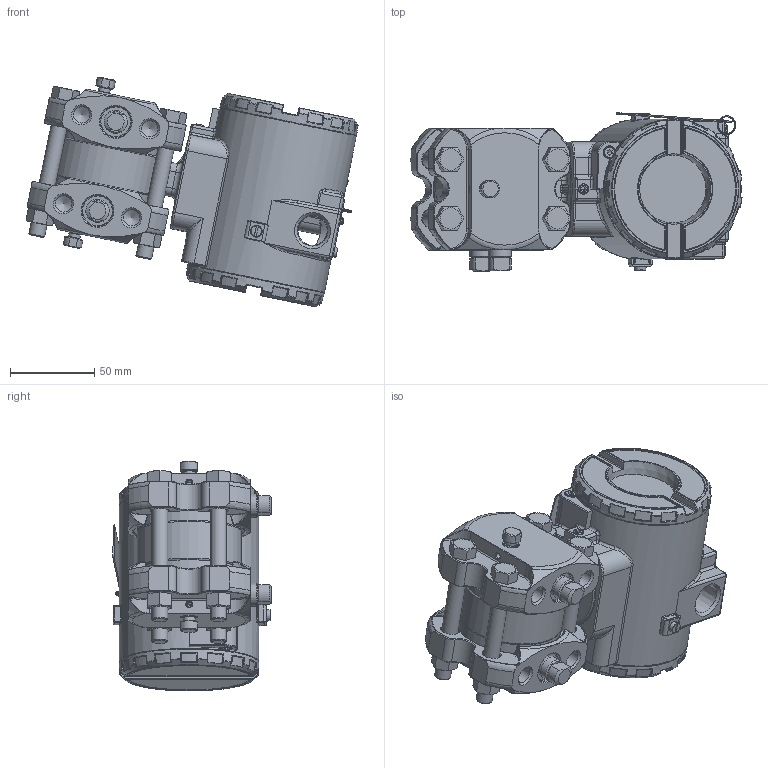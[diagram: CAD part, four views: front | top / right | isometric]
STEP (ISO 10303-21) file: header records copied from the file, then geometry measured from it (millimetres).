
FILE_DESCRIPTION(/* description */ (''),/* implementation_level */ '2;1');
FILE_NAME(/* name */ 'F:\Area\Desenvolvimento_2\Projects\Sensor\projetos\LD30X\montagens 3d - clientes\LD30XH0-3 1-4NPT Monel purga abaixo.stp',/* time_stamp */ '2023-01-26T11:56:32-03:00',/* author */ ('inventor02'),/* organization */ (''),/* preprocessor_version */ 'ST-DEVELOPER v17',/* originating_system */ 'Autodesk Inventor 2019',/* authorisation */ '');
FILE_SCHEMA (('CONFIG_CONTROL_DESIGN'));
Products named in the file (29): LD30XH0-3 1-4NPT Monel purga abaixo; diferencial FX0-3 monel purga abaixo; involucro fx0-3 apos a usinagem final; bujao 1-4NPT; 081-C-0500-10 monel barra 7-16 purga M8; Sangria; Porca 3-8 x 16 UNC; Paraf. 3-8 x 16 UNC; carcaça vazia com tampas e plaqueta; carcaça LD inox sem letras; Subconjunto plaqueta 300; Plaqueta transmissor; Parafuso da Plaqueta; Rebite da Plaqueta; 096-A-0169-03; 101-A-0502-01; Chapa aterramento externo; ISO 1207 - M4 x 8; DIN 915 - M6 x 10; ANSI B18.3.1M - M4x0,7 x 8; Subconjunto tampa com visor aluminio; tampa pintada; VIDRO DO VISOR; oring 41x1 vidro tampa; Trava do vidro da tampa com visor; trava do vidro VH256; Subconjunto tampa sem visor-aluminio; tampa cega 300 pintada p0; 00034775-0
Assembly tree (39 placements, depth 4):
  LD30XH0-3 1-4NPT Monel purga abaixo
    diferencial FX0-3 monel purga abaixo
      involucro fx0-3 apos a usinagem final
      bujao 1-4NPT  x2
      081-C-0500-10 monel barra 7-16 purga M8  x2
      Sangria  x2
      Porca 3-8 x 16 UNC  x4
      Paraf. 3-8 x 16 UNC  x4
    carcaça vazia com tampas e plaqueta
      carcaça LD inox sem letras
      Subconjunto plaqueta 300
        Plaqueta transmissor
        Parafuso da Plaqueta
        Rebite da Plaqueta
        096-A-0169-03
        101-A-0502-01
      Chapa aterramento externo
      ISO 1207 - M4 x 8
      DIN 915 - M6 x 10
      ANSI B18.3.1M - M4x0,7 x 8  x2
      Subconjunto tampa com visor aluminio
        tampa pintada
        VIDRO DO VISOR
        oring 41x1 vidro tampa
        Trava do vidro da tampa com visor
        trava do vidro VH256
        00034775-0
      Subconjunto tampa sem visor-aluminio
        tampa cega 300 pintada p0
        00034775-0
Bounding box: 197.48 x 94.1 x 136.71 mm (x, y, z)
Volume: 636683.8 mm3; surface area: 236075.2 mm2
Topology: 34 solids, 34 shells, 2266 faces, 5509 edges, 3279 vertices
Faces by surface type: bspline 591, cylinder 499, plane 450, torus 350, cone 273, sphere 103
Full cylindrical faces by diameter (mm): 2 x2, 2.1 x2, 2.459 x5, 2.642 x1, 2.7 x1, 3 x5, 3.242 x4, 3.5 x4, 3.571 x1, 4 x4, 4.3 x1, 4.4 x1, 4.917 x1, 5 x4, 5.5 x2, 6 x2, 6.647 x2, 7 x6, 7.087 x2, 7.6 x2, 7.798 x4, 8 x2, 8.7 x2, 9.525 x4, 9.728 x8, 10.5 x8, 10.719 x4, 12 x2, 13.8 x2, 14 x1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
Entity records: 71570 total; most frequent: CARTESIAN_POINT 28046, ORIENTED_EDGE 9116, DIRECTION 8680, EDGE_CURVE 4558, AXIS2_PLACEMENT_3D 3815, VERTEX_POINT 2725, CIRCLE 2255, EDGE_LOOP 2019
